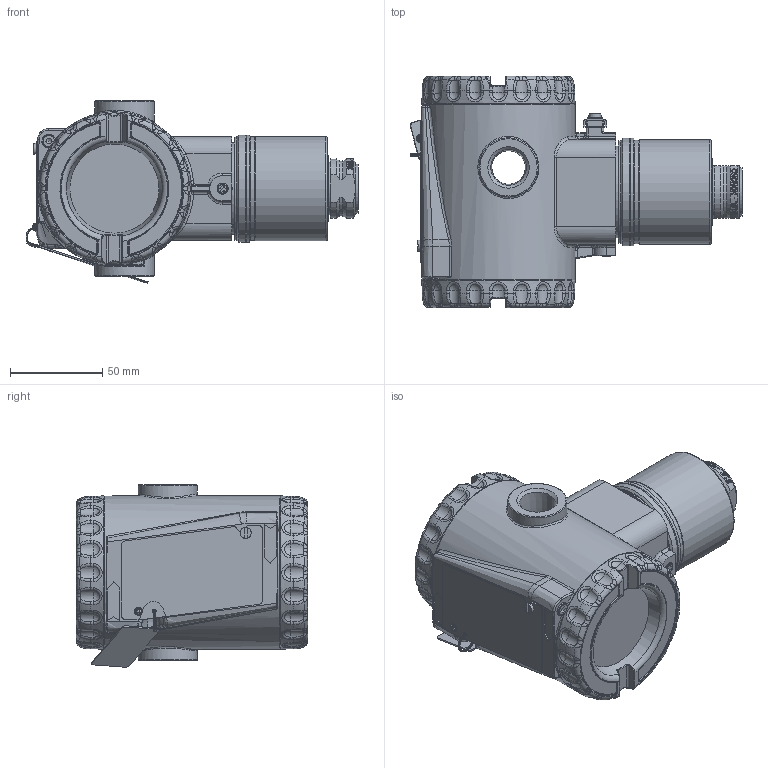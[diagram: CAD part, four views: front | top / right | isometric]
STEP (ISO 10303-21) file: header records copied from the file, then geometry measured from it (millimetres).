
FILE_DESCRIPTION(/* description */ (''),/* implementation_level */ '2;1');
FILE_NAME(/* name */ 'F:\Area\Desenvolvimento_2\Projects\Sensor\projetos\LD400-3d\dimensionais 3D clientes\LD400G\LD400G4 1-2 NPT femea.stp',/* time_stamp */ '2023-02-02T16:46:05-03:00',/* author */ ('inventor02'),/* organization */ (''),/* preprocessor_version */ 'ST-DEVELOPER v17',/* originating_system */ 'Autodesk Inventor 2019',/* authorisation */ '');
FILE_SCHEMA (('CONFIG_CONTROL_DESIGN'));
Products named in the file (26): LD400G4 1-2 NPT femea; SENSOR 29X FX4 1-2NPT; 101-B-5896-01 capa fx4; 101-C-3677-06 conexao ao processo 1-2NPT; 101-D-1309-04 pescoço LD29x usinado; Carcaça 400 com tampas e plaqueta sem letras; 101-D-0845-05 carcaça LD400 sem letras; 101-B-3614-03-tampa 400 sem letras; Tampa visor 400 montada sem letras; 101-B-3612-05 tampa visor 400 sem letras; 101-A-6107; oring 2034; 00034775-0; WHW_250; DIN 915 - M6 x 10; Chapa aterramento externo; 201-A-1771-02 inserto terra recartilhado; AS 1969 - ST4,2; ISO 1207 - M4 x 8; ANSI B18.3.1M - M4x0,7 x 8; Subconjunto plaqueta 400; plaqueta 400 em branco; Parafuso da Plaqueta; Rebite da Plaqueta; 096-A-0169-03; 101-A-0502-01
Assembly tree (26 placements, depth 4):
  LD400G4 1-2 NPT femea
    SENSOR 29X FX4 1-2NPT
      101-B-5896-01 capa fx4
      101-C-3677-06 conexao ao processo 1-2NPT
      101-D-1309-04 pescoço LD29x usinado
    Carcaça 400 com tampas e plaqueta sem letras
      101-D-0845-05 carcaça LD400 sem letras
      101-B-3614-03-tampa 400 sem letras
      Tampa visor 400 montada sem letras
        101-B-3612-05 tampa visor 400 sem letras
        101-A-6107
        oring 2034
        00034775-0
        WHW_250
      DIN 915 - M6 x 10
      Chapa aterramento externo
      201-A-1771-02 inserto terra recartilhado
      AS 1969 - ST4,2
      ISO 1207 - M4 x 8
      ANSI B18.3.1M - M4x0,7 x 8  x2
      Subconjunto plaqueta 400
        plaqueta 400 em branco
        Parafuso da Plaqueta
        Rebite da Plaqueta
        096-A-0169-03
        101-A-0502-01
Bounding box: 179.55 x 125 x 98.64 mm (x, y, z)
Volume: 435805.7 mm3; surface area: 183174.1 mm2
Topology: 22 solids, 22 shells, 1942 faces, 4809 edges, 2928 vertices
Faces by surface type: plane 543, bspline 513, cylinder 433, torus 270, cone 128, sphere 55
Full cylindrical faces by diameter (mm): 2 x2, 2.1 x1, 2.2 x1, 2.459 x3, 2.7 x1, 3 x1, 3.242 x3, 3.5 x4, 3.571 x1, 4 x4, 4.3 x2, 4.4 x1, 4.917 x1, 6 x2, 6.1 x2, 6.2 x1, 7 x2, 7.6 x2, 18 x1, 18.3 x2, 26.5 x1, 28.399 x1, 32 x2, 32.2 x1, 34.15 x1, 35.15 x1, 35.2 x1, 36 x1, 37 x1, 38 x2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
Entity records: 75207 total; most frequent: CARTESIAN_POINT 30471, ORIENTED_EDGE 9450, DIRECTION 8739, EDGE_CURVE 4725, AXIS2_PLACEMENT_3D 3615, VERTEX_POINT 2899, CIRCLE 2061, EDGE_LOOP 2024
